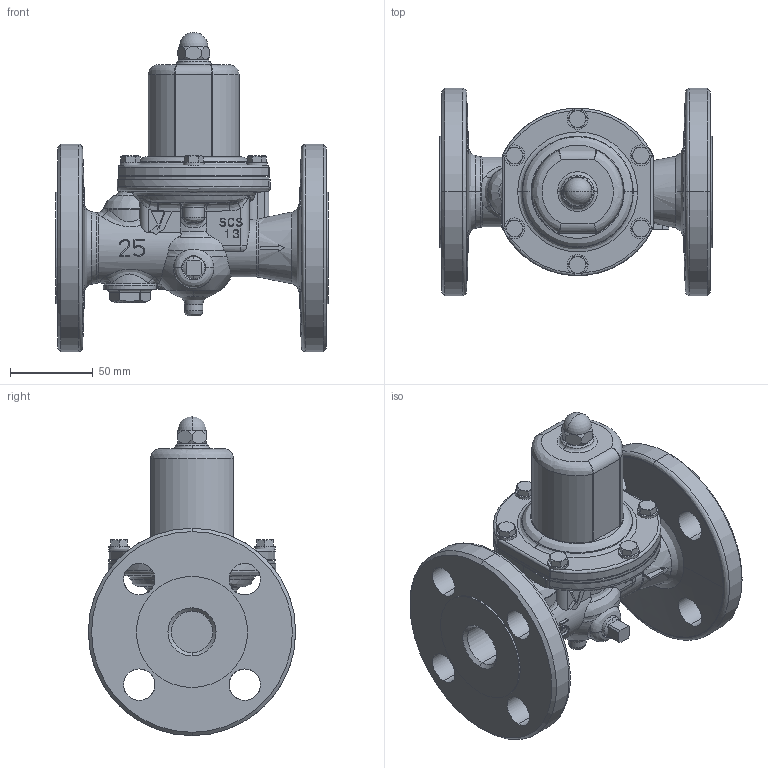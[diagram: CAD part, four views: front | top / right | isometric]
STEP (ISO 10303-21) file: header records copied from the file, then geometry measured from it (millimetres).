
FILE_DESCRIPTION( (''), '2;1');
FILE_NAME ('PC2091.11224.GD-29S-NE 25A_20736.stp','2026-03-26T17:13:25',(''),(''),'spGate 21.9.4 (****-****-****-****)','','');
FILE_SCHEMA (('AUTOMOTIVE_DESIGN'));
Length unit declared in the file: millimetre
Products named in the file (9): Assembly; 弁箱25A　20K; ダイヤフラム20,25Ａ; ストレーナキャップ　3D　20A-2; プラグ3D; CP_''_JIS B 1183 六角袋ナット 3形 M''_705; CP_平座金(ミ''_JIS B 1256 みがき丸 6_740; 保護筒　3D; CP_''_JIS B 1180 呼び径六角ボルト''_17166
Assembly tree (19 placements, depth 2):
  Assembly
    弁箱25A　20K
    ダイヤフラム20,25Ａ
    ストレーナキャップ　3D　20A-2
    プラグ3D  x2
    CP_''_JIS B 1183 六角袋ナット 3形 M''_705
    CP_平座金(ミ''_JIS B 1256 みがき丸 6_740  x6
    保護筒　3D
    CP_''_JIS B 1180 呼び径六角ボルト''_17166  x6
Bounding box: 164 x 125 x 192.43 mm (x, y, z)
Volume: 802299.4 mm3; surface area: 162006.1 mm2
Topology: 19 solids, 19 shells, 729 faces, 1805 edges, 1133 vertices
Faces by surface type: bspline 270, cylinder 223, plane 218, sphere 18
Entity records: 37799 total; most frequent: CARTESIAN_POINT 14454, ORIENTED_EDGE 2886, COLOUR_RGB 2016, PRESENTATION_STYLE_ASSIGNMENT 2016, STYLED_ITEM 2016, DIRECTION 1968, EDGE_CURVE 1443, DRAUGHTING_PRE_DEFINED_CURVE_FONT 1443
